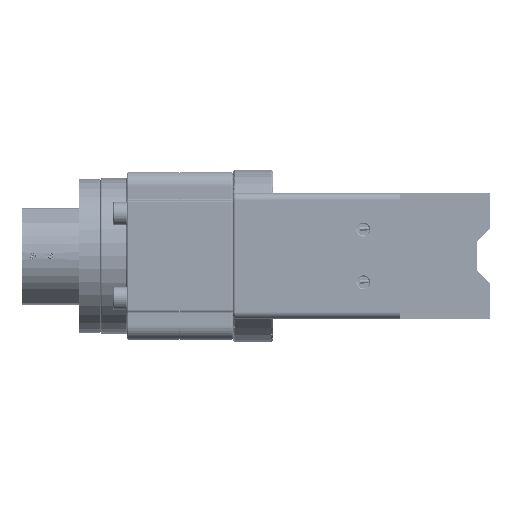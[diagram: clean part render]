
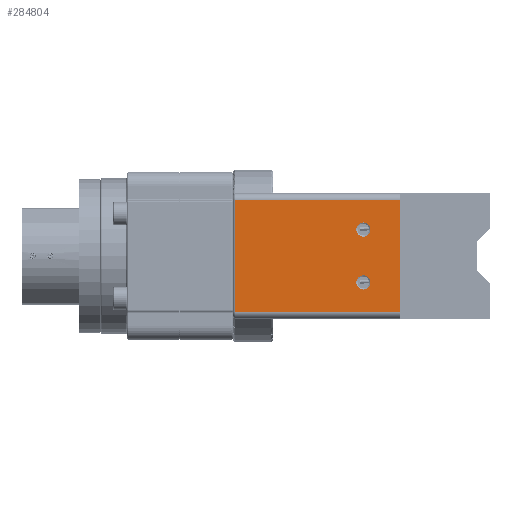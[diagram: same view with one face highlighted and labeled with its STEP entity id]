
A CAD part, left-side view. The second image highlights one B-rep face of the part: STEP entity #284804.
In plain terms, the highlighted planar face has unit normal (-1, 0, 0).
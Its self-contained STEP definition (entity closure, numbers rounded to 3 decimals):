
#6869 = DIRECTION ( 'NONE',  ( 0., -1., 0. ) ) ;
#15127 = VERTEX_POINT ( 'NONE', #168219 ) ;
#27455 = CARTESIAN_POINT ( 'NONE',  ( -198.91, 70.5, 15. ) ) ;
#29035 = DIRECTION ( 'NONE',  ( 0., 1., 0. ) ) ;
#36803 = CARTESIAN_POINT ( 'NONE',  ( -198.91, 70.5, -15. ) ) ;
#41870 = VECTOR ( 'NONE', #117413, 1000. ) ;
#44793 = VERTEX_POINT ( 'NONE', #112720 ) ;
#48144 = EDGE_LOOP ( 'NONE', ( #68425, #275404 ) ) ;
#50429 = EDGE_CURVE ( 'NONE', #162889, #57387, #108361, .T. ) ;
#53296 = VECTOR ( 'NONE', #212382, 1000. ) ;
#54437 = EDGE_LOOP ( 'NONE', ( #262722, #166546 ) ) ;
#55091 = FACE_OUTER_BOUND ( 'NONE', #78889, .T. ) ;
#57387 = VERTEX_POINT ( 'NONE', #97038 ) ;
#64934 = VERTEX_POINT ( 'NONE', #75949 ) ;
#68425 = ORIENTED_EDGE ( 'NONE', *, *, #50429, .F. ) ;
#75949 = CARTESIAN_POINT ( 'NONE',  ( -198.91, 74.5, 15. ) ) ;
#78889 = EDGE_LOOP ( 'NONE', ( #302217, #316389, #151571, #95151 ) ) ;
#86526 = EDGE_CURVE ( 'NONE', #241362, #44793, #234638, .T. ) ;
#90081 = CARTESIAN_POINT ( 'NONE',  ( -198.91, 144.57, 31.5 ) ) ;
#93538 = CARTESIAN_POINT ( 'NONE',  ( -198.91, 50., -31.5 ) ) ;
#95151 = ORIENTED_EDGE ( 'NONE', *, *, #239177, .T. ) ;
#97038 = CARTESIAN_POINT ( 'NONE',  ( -198.91, 66.5, -15. ) ) ;
#102957 = DIRECTION ( 'NONE',  ( -1., 0., 0. ) ) ;
#105235 = CARTESIAN_POINT ( 'NONE',  ( -198.91, 50., 31.5 ) ) ;
#108361 = CIRCLE ( 'NONE', #277644, 4. ) ;
#109484 = DIRECTION ( 'NONE',  ( 0., 0., 1. ) ) ;
#112189 = EDGE_CURVE ( 'NONE', #64934, #118866, #185347, .T. ) ;
#112720 = CARTESIAN_POINT ( 'NONE',  ( -198.91, 143.07, 31.5 ) ) ;
#114846 = CIRCLE ( 'NONE', #207193, 4. ) ;
#117413 = DIRECTION ( 'NONE',  ( 0., 0., -1. ) ) ;
#118866 = VERTEX_POINT ( 'NONE', #234231 ) ;
#133012 = EDGE_CURVE ( 'NONE', #44793, #15127, #286157, .T. ) ;
#133207 = EDGE_CURVE ( 'NONE', #57387, #162889, #231690, .T. ) ;
#133564 = CARTESIAN_POINT ( 'NONE',  ( -198.91, 50., 35.5 ) ) ;
#151571 = ORIENTED_EDGE ( 'NONE', *, *, #231792, .T. ) ;
#153060 = PLANE ( 'NONE',  #176102 ) ;
#159594 = VECTOR ( 'NONE', #189613, 1000. ) ;
#162050 = DIRECTION ( 'NONE',  ( 0., 1., 0. ) ) ;
#162889 = VERTEX_POINT ( 'NONE', #285615 ) ;
#166546 = ORIENTED_EDGE ( 'NONE', *, *, #190109, .F. ) ;
#168219 = CARTESIAN_POINT ( 'NONE',  ( -198.91, 143.07, -31.5 ) ) ;
#176102 = AXIS2_PLACEMENT_3D ( 'NONE', #297753, #302504, #6869 ) ;
#178564 = DIRECTION ( 'NONE',  ( 0., 1., 0. ) ) ;
#179433 = VECTOR ( 'NONE', #109484, 1000. ) ;
#180154 = CARTESIAN_POINT ( 'NONE',  ( -198.91, 70.5, -15. ) ) ;
#185347 = CIRCLE ( 'NONE', #298506, 4. ) ;
#189613 = DIRECTION ( 'NONE',  ( 0., 1., 0. ) ) ;
#190109 = EDGE_CURVE ( 'NONE', #118866, #64934, #114846, .T. ) ;
#190659 = AXIS2_PLACEMENT_3D ( 'NONE', #36803, #305124, #162050 ) ;
#191468 = LINE ( 'NONE', #93538, #53296 ) ;
#192840 = VERTEX_POINT ( 'NONE', #291755 ) ;
#207193 = AXIS2_PLACEMENT_3D ( 'NONE', #27455, #102957, #29035 ) ;
#210562 = LINE ( 'NONE', #133564, #179433 ) ;
#212382 = DIRECTION ( 'NONE',  ( 0., -1., 0. ) ) ;
#231690 = CIRCLE ( 'NONE', #190659, 4. ) ;
#231792 = EDGE_CURVE ( 'NONE', #15127, #192840, #191468, .T. ) ;
#234231 = CARTESIAN_POINT ( 'NONE',  ( -198.91, 66.5, 15. ) ) ;
#234638 = LINE ( 'NONE', #90081, #159594 ) ;
#239177 = EDGE_CURVE ( 'NONE', #192840, #241362, #210562, .T. ) ;
#239467 = CARTESIAN_POINT ( 'NONE',  ( -198.91, 143.07, -31.5 ) ) ;
#241362 = VERTEX_POINT ( 'NONE', #105235 ) ;
#258278 = DIRECTION ( 'NONE',  ( 0., 1., 0. ) ) ;
#262722 = ORIENTED_EDGE ( 'NONE', *, *, #112189, .F. ) ;
#275194 = FACE_BOUND ( 'NONE', #48144, .T. ) ;
#275404 = ORIENTED_EDGE ( 'NONE', *, *, #133207, .F. ) ;
#276805 = FACE_BOUND ( 'NONE', #54437, .T. ) ;
#277644 = AXIS2_PLACEMENT_3D ( 'NONE', #180154, #303893, #178564 ) ;
#284804 = ADVANCED_FACE ( 'NONE', ( #276805, #275194, #55091 ), #153060, .F. ) ;
#285615 = CARTESIAN_POINT ( 'NONE',  ( -198.91, 74.5, -15. ) ) ;
#286157 = LINE ( 'NONE', #239467, #41870 ) ;
#287157 = DIRECTION ( 'NONE',  ( -1., 0., 0. ) ) ;
#291755 = CARTESIAN_POINT ( 'NONE',  ( -198.91, 50., -31.5 ) ) ;
#297753 = CARTESIAN_POINT ( 'NONE',  ( -198.91, 194.753, 35.5 ) ) ;
#298506 = AXIS2_PLACEMENT_3D ( 'NONE', #309676, #287157, #258278 ) ;
#302217 = ORIENTED_EDGE ( 'NONE', *, *, #86526, .T. ) ;
#302504 = DIRECTION ( 'NONE',  ( 1., 0., 0. ) ) ;
#303893 = DIRECTION ( 'NONE',  ( -1., 0., 0. ) ) ;
#305124 = DIRECTION ( 'NONE',  ( -1., 0., 0. ) ) ;
#309676 = CARTESIAN_POINT ( 'NONE',  ( -198.91, 70.5, 15. ) ) ;
#316389 = ORIENTED_EDGE ( 'NONE', *, *, #133012, .T. ) ;
